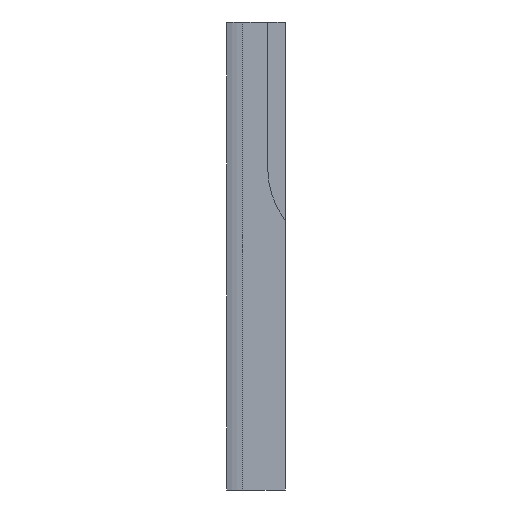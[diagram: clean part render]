
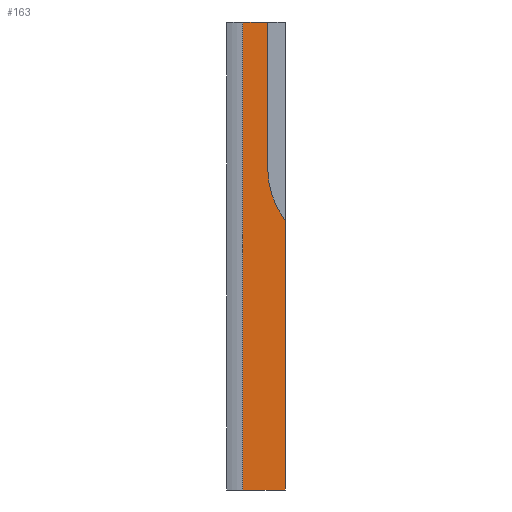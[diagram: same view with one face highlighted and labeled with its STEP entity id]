
A CAD part, front view. The second image highlights one B-rep face of the part: STEP entity #163.
In plain terms, the highlighted planar face has unit normal (0, -1, 0).
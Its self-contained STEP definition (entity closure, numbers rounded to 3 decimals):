
#39 = EDGE_CURVE('',#40,#42,#44,.T.);
#40 = VERTEX_POINT('',#41);
#41 = CARTESIAN_POINT('',(-36.,-13.2,46.));
#42 = VERTEX_POINT('',#43);
#43 = CARTESIAN_POINT('',(-36.,-13.2,-42.));
#44 = SURFACE_CURVE('',#45,(#49,#61),.PCURVE_S1.);
#45 = LINE('',#46,#47);
#46 = CARTESIAN_POINT('',(-36.,-13.2,47.));
#47 = VECTOR('',#48,1.);
#48 = DIRECTION('',(-0.,-0.,-1.));
#49 = PCURVE('',#50,#55);
#50 = CYLINDRICAL_SURFACE('',#51,8.);
#51 = AXIS2_PLACEMENT_3D('',#52,#53,#54);
#52 = CARTESIAN_POINT('',(-36.,-5.2,47.));
#53 = DIRECTION('',(-0.,-0.,-1.));
#54 = DIRECTION('',(0.,-1.,0.));
#55 = DEFINITIONAL_REPRESENTATION('',(#56),#60);
#56 = LINE('',#57,#58);
#57 = CARTESIAN_POINT('',(0.,0.));
#58 = VECTOR('',#59,1.);
#59 = DIRECTION('',(0.,1.));
#60 = ( GEOMETRIC_REPRESENTATION_CONTEXT(2) 
PARAMETRIC_REPRESENTATION_CONTEXT() REPRESENTATION_CONTEXT('2D SPACE',''
  ) );
#61 = PCURVE('',#62,#67);
#62 = PLANE('',#63);
#63 = AXIS2_PLACEMENT_3D('',#64,#65,#66);
#64 = CARTESIAN_POINT('',(-44.,-13.2,-75.));
#65 = DIRECTION('',(0.,1.,0.));
#66 = DIRECTION('',(0.,-0.,1.));
#67 = DEFINITIONAL_REPRESENTATION('',(#68),#72);
#68 = LINE('',#69,#70);
#69 = CARTESIAN_POINT('',(122.,8.));
#70 = VECTOR('',#71,1.);
#71 = DIRECTION('',(-1.,0.));
#72 = ( GEOMETRIC_REPRESENTATION_CONTEXT(2) 
PARAMETRIC_REPRESENTATION_CONTEXT() REPRESENTATION_CONTEXT('2D SPACE',''
  ) );
#91 = PLANE('',#92);
#92 = AXIS2_PLACEMENT_3D('',#93,#94,#95);
#93 = CARTESIAN_POINT('',(-39.,-13.3,46.));
#94 = DIRECTION('',(0.,0.,1.));
#95 = DIRECTION('',(1.,0.,0.));
#148 = PLANE('',#149);
#149 = AXIS2_PLACEMENT_3D('',#150,#151,#152);
#150 = CARTESIAN_POINT('',(-39.,-13.3,-42.));
#151 = DIRECTION('',(0.,0.,1.));
#152 = DIRECTION('',(1.,0.,0.));
#163 = ADVANCED_FACE('',(#164),#62,.F.);
#164 = FACE_BOUND('',#165,.F.);
#165 = EDGE_LOOP('',(#166,#187,#188,#209,#237,#266));
#166 = ORIENTED_EDGE('',*,*,#167,.F.);
#167 = EDGE_CURVE('',#42,#168,#170,.T.);
#168 = VERTEX_POINT('',#169);
#169 = CARTESIAN_POINT('',(-28.,-13.2,-42.));
#170 = SURFACE_CURVE('',#171,(#175,#181),.PCURVE_S1.);
#171 = LINE('',#172,#173);
#172 = CARTESIAN_POINT('',(-41.5,-13.2,-42.));
#173 = VECTOR('',#174,1.);
#174 = DIRECTION('',(1.,0.,0.));
#175 = PCURVE('',#62,#176);
#176 = DEFINITIONAL_REPRESENTATION('',(#177),#180);
#177 = B_SPLINE_CURVE_WITH_KNOTS('',1,(#178,#179),.UNSPECIFIED.,.F.,.F.,
  (2,2),(5.5,13.5),.PIECEWISE_BEZIER_KNOTS.);
#178 = CARTESIAN_POINT('',(33.,8.));
#179 = CARTESIAN_POINT('',(33.,16.));
#180 = ( GEOMETRIC_REPRESENTATION_CONTEXT(2) 
PARAMETRIC_REPRESENTATION_CONTEXT() REPRESENTATION_CONTEXT('2D SPACE',''
  ) );
#181 = PCURVE('',#148,#182);
#182 = DEFINITIONAL_REPRESENTATION('',(#183),#186);
#183 = B_SPLINE_CURVE_WITH_KNOTS('',1,(#184,#185),.UNSPECIFIED.,.F.,.F.,
  (2,2),(5.5,13.5),.PIECEWISE_BEZIER_KNOTS.);
#184 = CARTESIAN_POINT('',(3.,0.1));
#185 = CARTESIAN_POINT('',(11.,0.1));
#186 = ( GEOMETRIC_REPRESENTATION_CONTEXT(2) 
PARAMETRIC_REPRESENTATION_CONTEXT() REPRESENTATION_CONTEXT('2D SPACE',''
  ) );
#187 = ORIENTED_EDGE('',*,*,#39,.F.);
#188 = ORIENTED_EDGE('',*,*,#189,.T.);
#189 = EDGE_CURVE('',#40,#190,#192,.T.);
#190 = VERTEX_POINT('',#191);
#191 = CARTESIAN_POINT('',(-31.3,-13.2,46.));
#192 = SURFACE_CURVE('',#193,(#197,#203),.PCURVE_S1.);
#193 = LINE('',#194,#195);
#194 = CARTESIAN_POINT('',(-41.5,-13.2,46.));
#195 = VECTOR('',#196,1.);
#196 = DIRECTION('',(1.,0.,0.));
#197 = PCURVE('',#62,#198);
#198 = DEFINITIONAL_REPRESENTATION('',(#199),#202);
#199 = B_SPLINE_CURVE_WITH_KNOTS('',1,(#200,#201),.UNSPECIFIED.,.F.,.F.,
  (2,2),(5.5,13.5),.PIECEWISE_BEZIER_KNOTS.);
#200 = CARTESIAN_POINT('',(121.,8.));
#201 = CARTESIAN_POINT('',(121.,16.));
#202 = ( GEOMETRIC_REPRESENTATION_CONTEXT(2) 
PARAMETRIC_REPRESENTATION_CONTEXT() REPRESENTATION_CONTEXT('2D SPACE',''
  ) );
#203 = PCURVE('',#91,#204);
#204 = DEFINITIONAL_REPRESENTATION('',(#205),#208);
#205 = B_SPLINE_CURVE_WITH_KNOTS('',1,(#206,#207),.UNSPECIFIED.,.F.,.F.,
  (2,2),(5.5,13.5),.PIECEWISE_BEZIER_KNOTS.);
#206 = CARTESIAN_POINT('',(3.,0.1));
#207 = CARTESIAN_POINT('',(11.,0.1));
#208 = ( GEOMETRIC_REPRESENTATION_CONTEXT(2) 
PARAMETRIC_REPRESENTATION_CONTEXT() REPRESENTATION_CONTEXT('2D SPACE',''
  ) );
#209 = ORIENTED_EDGE('',*,*,#210,.T.);
#210 = EDGE_CURVE('',#190,#211,#213,.T.);
#211 = VERTEX_POINT('',#212);
#212 = CARTESIAN_POINT('',(-31.3,-13.2,18.5));
#213 = SURFACE_CURVE('',#214,(#218,#225),.PCURVE_S1.);
#214 = LINE('',#215,#216);
#215 = CARTESIAN_POINT('',(-31.3,-13.2,34.5));
#216 = VECTOR('',#217,1.);
#217 = DIRECTION('',(0.,0.,-1.));
#218 = PCURVE('',#62,#219);
#219 = DEFINITIONAL_REPRESENTATION('',(#220),#224);
#220 = LINE('',#221,#222);
#221 = CARTESIAN_POINT('',(109.5,12.7));
#222 = VECTOR('',#223,1.);
#223 = DIRECTION('',(-1.,0.));
#224 = ( GEOMETRIC_REPRESENTATION_CONTEXT(2) 
PARAMETRIC_REPRESENTATION_CONTEXT() REPRESENTATION_CONTEXT('2D SPACE',''
  ) );
#225 = PCURVE('',#226,#231);
#226 = PLANE('',#227);
#227 = AXIS2_PLACEMENT_3D('',#228,#229,#230);
#228 = CARTESIAN_POINT('',(-31.3,-13.2,50.5));
#229 = DIRECTION('',(-1.,0.,-0.));
#230 = DIRECTION('',(0.,0.,-1.));
#231 = DEFINITIONAL_REPRESENTATION('',(#232),#236);
#232 = LINE('',#233,#234);
#233 = CARTESIAN_POINT('',(16.,0.));
#234 = VECTOR('',#235,1.);
#235 = DIRECTION('',(1.,0.));
#236 = ( GEOMETRIC_REPRESENTATION_CONTEXT(2) 
PARAMETRIC_REPRESENTATION_CONTEXT() REPRESENTATION_CONTEXT('2D SPACE',''
  ) );
#237 = ORIENTED_EDGE('',*,*,#238,.F.);
#238 = EDGE_CURVE('',#239,#211,#241,.T.);
#239 = VERTEX_POINT('',#240);
#240 = CARTESIAN_POINT('',(-28.,-13.2,8.667));
#241 = SURFACE_CURVE('',#242,(#247,#254),.PCURVE_S1.);
#242 = CIRCLE('',#243,16.3);
#243 = AXIS2_PLACEMENT_3D('',#244,#245,#246);
#244 = CARTESIAN_POINT('',(-15.,-13.2,18.5));
#245 = DIRECTION('',(-0.,1.,0.));
#246 = DIRECTION('',(1.,0.,0.));
#247 = PCURVE('',#62,#248);
#248 = DEFINITIONAL_REPRESENTATION('',(#249),#253);
#249 = CIRCLE('',#250,16.3);
#250 = AXIS2_PLACEMENT_2D('',#251,#252);
#251 = CARTESIAN_POINT('',(93.5,29.));
#252 = DIRECTION('',(0.,1.));
#253 = ( GEOMETRIC_REPRESENTATION_CONTEXT(2) 
PARAMETRIC_REPRESENTATION_CONTEXT() REPRESENTATION_CONTEXT('2D SPACE',''
  ) );
#254 = PCURVE('',#255,#260);
#255 = CYLINDRICAL_SURFACE('',#256,16.3);
#256 = AXIS2_PLACEMENT_3D('',#257,#258,#259);
#257 = CARTESIAN_POINT('',(-15.,-13.2,18.5));
#258 = DIRECTION('',(0.,-1.,-0.));
#259 = DIRECTION('',(1.,0.,0.));
#260 = DEFINITIONAL_REPRESENTATION('',(#261),#265);
#261 = LINE('',#262,#263);
#262 = CARTESIAN_POINT('',(-0.,0.));
#263 = VECTOR('',#264,1.);
#264 = DIRECTION('',(-1.,0.));
#265 = ( GEOMETRIC_REPRESENTATION_CONTEXT(2) 
PARAMETRIC_REPRESENTATION_CONTEXT() REPRESENTATION_CONTEXT('2D SPACE',''
  ) );
#266 = ORIENTED_EDGE('',*,*,#267,.T.);
#267 = EDGE_CURVE('',#239,#168,#268,.T.);
#268 = SURFACE_CURVE('',#269,(#273,#279),.PCURVE_S1.);
#269 = LINE('',#270,#271);
#270 = CARTESIAN_POINT('',(-28.,-13.2,-58.5));
#271 = VECTOR('',#272,1.);
#272 = DIRECTION('',(0.,0.,-1.));
#273 = PCURVE('',#62,#274);
#274 = DEFINITIONAL_REPRESENTATION('',(#275),#278);
#275 = B_SPLINE_CURVE_WITH_KNOTS('',1,(#276,#277),.UNSPECIFIED.,.F.,.F.,
  (2,2),(-104.5,-16.5),.PIECEWISE_BEZIER_KNOTS.);
#276 = CARTESIAN_POINT('',(121.,16.));
#277 = CARTESIAN_POINT('',(33.,16.));
#278 = ( GEOMETRIC_REPRESENTATION_CONTEXT(2) 
PARAMETRIC_REPRESENTATION_CONTEXT() REPRESENTATION_CONTEXT('2D SPACE',''
  ) );
#279 = PCURVE('',#280,#285);
#280 = PLANE('',#281);
#281 = AXIS2_PLACEMENT_3D('',#282,#283,#284);
#282 = CARTESIAN_POINT('',(-28.,-13.3,-42.));
#283 = DIRECTION('',(1.,0.,0.));
#284 = DIRECTION('',(0.,0.,1.));
#285 = DEFINITIONAL_REPRESENTATION('',(#286),#289);
#286 = B_SPLINE_CURVE_WITH_KNOTS('',1,(#287,#288),.UNSPECIFIED.,.F.,.F.,
  (2,2),(-104.5,-16.5),.PIECEWISE_BEZIER_KNOTS.);
#287 = CARTESIAN_POINT('',(88.,-0.1));
#288 = CARTESIAN_POINT('',(0.,-0.1));
#289 = ( GEOMETRIC_REPRESENTATION_CONTEXT(2) 
PARAMETRIC_REPRESENTATION_CONTEXT() REPRESENTATION_CONTEXT('2D SPACE',''
  ) );
